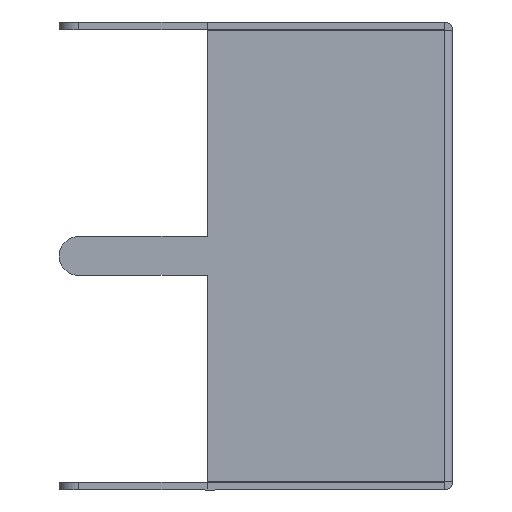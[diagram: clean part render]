
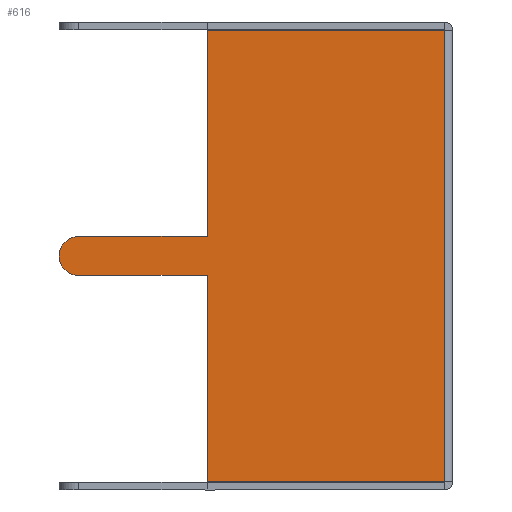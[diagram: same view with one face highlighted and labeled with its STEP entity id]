
A CAD part, left-side view. The second image highlights one B-rep face of the part: STEP entity #616.
In plain terms, the highlighted planar face has unit normal (-1, 0, 0).
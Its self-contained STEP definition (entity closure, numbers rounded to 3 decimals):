
#15 = VECTOR ( 'NONE', #499, 1000. ) ;
#68 = ORIENTED_EDGE ( 'NONE', *, *, #825, .F. ) ;
#74 = CARTESIAN_POINT ( 'NONE',  ( -10.05, 6.1, -0.5 ) ) ;
#75 = CIRCLE ( 'NONE', #1075, 0.5 ) ;
#124 = ORIENTED_EDGE ( 'NONE', *, *, #440, .F. ) ;
#137 = ORIENTED_EDGE ( 'NONE', *, *, #1462, .T. ) ;
#138 = CIRCLE ( 'NONE', #646, 0.5 ) ;
#141 = EDGE_CURVE ( 'NONE', #312, #511, #1227, .T. ) ;
#143 = CARTESIAN_POINT ( 'NONE',  ( -10.05, 9.4, -0.5 ) ) ;
#148 = ORIENTED_EDGE ( 'NONE', *, *, #567, .F. ) ;
#173 = CARTESIAN_POINT ( 'NONE',  ( -10.05, 0., 5.793 ) ) ;
#309 = VERTEX_POINT ( 'NONE', #1273 ) ;
#312 = VERTEX_POINT ( 'NONE', #1684 ) ;
#341 = VERTEX_POINT ( 'NONE', #1184 ) ;
#362 = CARTESIAN_POINT ( 'NONE',  ( -10.05, 0., -5.793 ) ) ;
#391 = VECTOR ( 'NONE', #560, 1000. ) ;
#406 = VERTEX_POINT ( 'NONE', #1210 ) ;
#423 = VERTEX_POINT ( 'NONE', #1609 ) ;
#440 = EDGE_CURVE ( 'NONE', #1592, #423, #138, .T. ) ;
#442 = CARTESIAN_POINT ( 'NONE',  ( -10.05, 9.4, 0.5 ) ) ;
#444 = CARTESIAN_POINT ( 'NONE',  ( -10.05, 6.1, 0.5 ) ) ;
#475 = VECTOR ( 'NONE', #1047, 1000. ) ;
#490 = CARTESIAN_POINT ( 'NONE',  ( -10.05, 9.4, -0.5 ) ) ;
#494 = DIRECTION ( 'NONE',  ( 0., 1., 0. ) ) ;
#499 = DIRECTION ( 'NONE',  ( 0., 0., -1. ) ) ;
#511 = VERTEX_POINT ( 'NONE', #444 ) ;
#554 = LINE ( 'NONE', #1762, #895 ) ;
#560 = DIRECTION ( 'NONE',  ( 0., 1., 0. ) ) ;
#567 = EDGE_CURVE ( 'NONE', #341, #791, #554, .T. ) ;
#579 = LINE ( 'NONE', #994, #1310 ) ;
#606 = VERTEX_POINT ( 'NONE', #74 ) ;
#610 = DIRECTION ( 'NONE',  ( 0., 1., 0. ) ) ;
#616 = ADVANCED_FACE ( 'NONE', ( #1414 ), #1542, .F. ) ;
#622 = LINE ( 'NONE', #362, #475 ) ;
#625 = ORIENTED_EDGE ( 'NONE', *, *, #857, .T. ) ;
#646 = AXIS2_PLACEMENT_3D ( 'NONE', #806, #667, #494 ) ;
#667 = DIRECTION ( 'NONE',  ( 1., 0., 0. ) ) ;
#701 = VECTOR ( 'NONE', #1372, 1000. ) ;
#708 = ORIENTED_EDGE ( 'NONE', *, *, #141, .F. ) ;
#771 = DIRECTION ( 'NONE',  ( 1., 0., 0. ) ) ;
#791 = VERTEX_POINT ( 'NONE', #1331 ) ;
#806 = CARTESIAN_POINT ( 'NONE',  ( -10.05, 9.4, 0. ) ) ;
#825 = EDGE_CURVE ( 'NONE', #423, #312, #75, .T. ) ;
#857 = EDGE_CURVE ( 'NONE', #606, #309, #1723, .T. ) ;
#895 = VECTOR ( 'NONE', #1083, 1000. ) ;
#911 = EDGE_CURVE ( 'NONE', #606, #1592, #944, .T. ) ;
#944 = LINE ( 'NONE', #143, #701 ) ;
#984 = DIRECTION ( 'NONE',  ( 0., -1., 0. ) ) ;
#994 = CARTESIAN_POINT ( 'NONE',  ( -10.05, 6.1, 0. ) ) ;
#1029 = EDGE_LOOP ( 'NONE', ( #1481, #708, #68, #124, #1407, #625, #1694, #148, #137 ) ) ;
#1047 = DIRECTION ( 'NONE',  ( 0., 1., 0. ) ) ;
#1075 = AXIS2_PLACEMENT_3D ( 'NONE', #1615, #771, #1716 ) ;
#1083 = DIRECTION ( 'NONE',  ( 0., 0., -1. ) ) ;
#1184 = CARTESIAN_POINT ( 'NONE',  ( -10.05, 0.01, 5.793 ) ) ;
#1210 = CARTESIAN_POINT ( 'NONE',  ( -10.05, 6.1, 5.793 ) ) ;
#1227 = LINE ( 'NONE', #442, #1702 ) ;
#1273 = CARTESIAN_POINT ( 'NONE',  ( -10.05, 6.1, -5.793 ) ) ;
#1274 = LINE ( 'NONE', #173, #391 ) ;
#1288 = EDGE_CURVE ( 'NONE', #791, #309, #622, .T. ) ;
#1289 = CARTESIAN_POINT ( 'NONE',  ( -10.05, 0., 0. ) ) ;
#1301 = DIRECTION ( 'NONE',  ( 1., 0., 0. ) ) ;
#1310 = VECTOR ( 'NONE', #1539, 1000. ) ;
#1320 = CARTESIAN_POINT ( 'NONE',  ( -10.05, 6.1, 0. ) ) ;
#1331 = CARTESIAN_POINT ( 'NONE',  ( -10.05, 0.01, -5.793 ) ) ;
#1372 = DIRECTION ( 'NONE',  ( 0., 1., 0. ) ) ;
#1407 = ORIENTED_EDGE ( 'NONE', *, *, #911, .F. ) ;
#1414 = FACE_OUTER_BOUND ( 'NONE', #1029, .T. ) ;
#1462 = EDGE_CURVE ( 'NONE', #341, #406, #1274, .T. ) ;
#1481 = ORIENTED_EDGE ( 'NONE', *, *, #1570, .T. ) ;
#1489 = AXIS2_PLACEMENT_3D ( 'NONE', #1289, #1301, #610 ) ;
#1539 = DIRECTION ( 'NONE',  ( 0., 0., -1. ) ) ;
#1542 = PLANE ( 'NONE',  #1489 ) ;
#1570 = EDGE_CURVE ( 'NONE', #406, #511, #579, .T. ) ;
#1592 = VERTEX_POINT ( 'NONE', #490 ) ;
#1609 = CARTESIAN_POINT ( 'NONE',  ( -10.05, 9.9, 0. ) ) ;
#1615 = CARTESIAN_POINT ( 'NONE',  ( -10.05, 9.4, 0. ) ) ;
#1684 = CARTESIAN_POINT ( 'NONE',  ( -10.05, 9.4, 0.5 ) ) ;
#1694 = ORIENTED_EDGE ( 'NONE', *, *, #1288, .F. ) ;
#1702 = VECTOR ( 'NONE', #984, 1000. ) ;
#1716 = DIRECTION ( 'NONE',  ( 0., 1., 0. ) ) ;
#1723 = LINE ( 'NONE', #1320, #15 ) ;
#1762 = CARTESIAN_POINT ( 'NONE',  ( -10.05, 0.01, -6. ) ) ;
